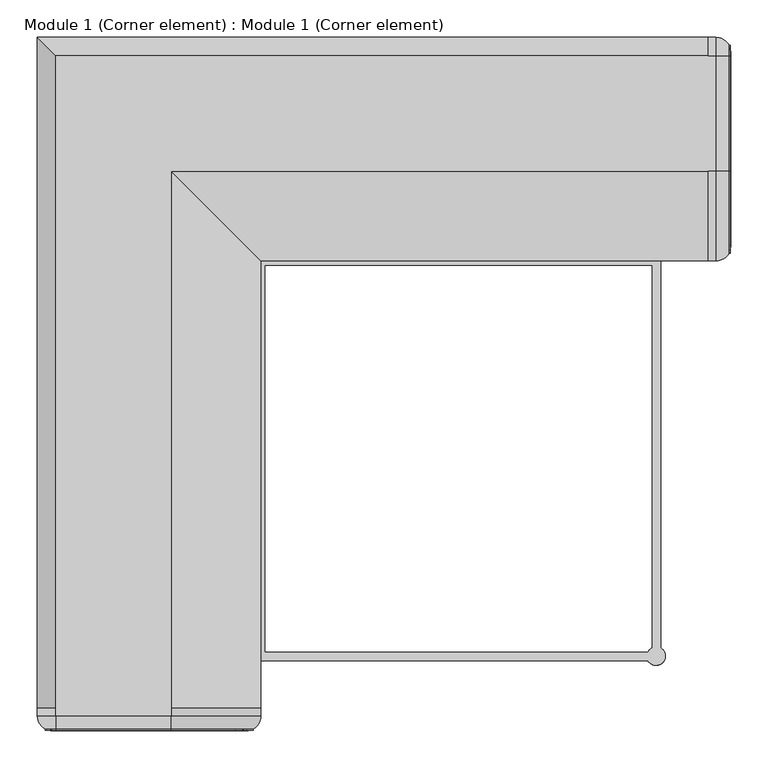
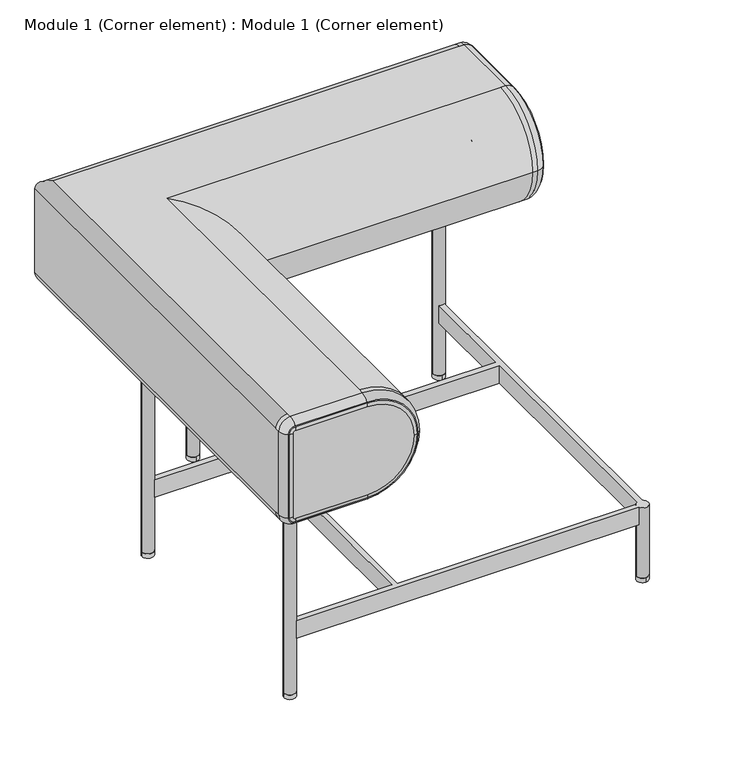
"""IFC4 building model written with IfcOpenShell, lengths in millimetres: furniture geometry, Module 1 (Corner element) : Module 1 (Corner element)."""

from ifc_helpers import new_model, si_unit, point, frame, frame_2d, origin, origin_with_axes, place, context, project, spatial, circle_curve, ellipse_curve, trimmed, segment, composite_curve, outline, extrude, source, transform, mapped, element, save
from ifc_brep_helpers import plane_surface, cylinder_surface, revolved_surface, advanced_brep


def module_1_corner_element_module_1_corner_element_ceed143c(model_context):
    return source(origin(), model_context, "Body", "SolidModel", [
        extrude(outline(composite_curve([segment(trimmed(circle_curve(frame_2d((-30.0, -300.0)), 12.5), [point((-17.5, -300.0))], [point((-42.5, -300.0))], False, "CARTESIAN"), True, "CONTINUOUS"), segment(trimmed(circle_curve(frame_2d((-30.0, -300.0)), 12.5), [point((-42.5, -300.0))], [point((-17.5, -300.0))], False, "CARTESIAN"), True, "CONTINUOUS")], self_intersect=False)), origin_with_axes(), (0.0, 0.0, 1.0), 10.0),
        extrude(outline(composite_curve([segment(trimmed(circle_curve(frame_2d((-30.0, -830.0)), 12.5), [point((-17.5, -830.0))], [point((-42.5, -830.0))], False, "CARTESIAN"), True, "CONTINUOUS"), segment(trimmed(circle_curve(frame_2d((-30.0, -830.0)), 12.5), [point((-42.5, -830.0))], [point((-17.5, -830.0))], False, "CARTESIAN"), True, "CONTINUOUS")], self_intersect=False)), origin_with_axes(), (0.0, 0.0, 1.0), 10.0),
        extrude(outline(composite_curve([segment(trimmed(circle_curve(frame_2d((730.0, -70.0)), 12.5), [point((730.0, -82.5))], [point((730.0, -57.5))], False, "CARTESIAN"), True, "CONTINUOUS"), segment(trimmed(circle_curve(frame_2d((730.0, -70.0)), 12.5), [point((730.0, -57.5))], [point((730.0, -82.5))], False, "CARTESIAN"), True, "CONTINUOUS")], self_intersect=False)), origin_with_axes(), (0.0, 0.0, 1.0), 10.0),
        extrude(outline(composite_curve([segment(trimmed(circle_curve(frame_2d((730.0, -830.0)), 12.5), [point((730.0, -842.5))], [point((730.0, -817.5))], False, "CARTESIAN"), True, "CONTINUOUS"), segment(trimmed(circle_curve(frame_2d((730.0, -830.0)), 12.5), [point((730.0, -817.5))], [point((730.0, -842.5))], False, "CARTESIAN"), True, "CONTINUOUS")], self_intersect=False)), origin_with_axes(), (0.0, 0.0, 1.0), 10.0),
        extrude(outline(composite_curve([segment(trimmed(circle_curve(frame_2d((200.0, -70.0)), 12.5), [point((200.0, -82.5))], [point((200.0, -57.5))], False, "CARTESIAN"), True, "CONTINUOUS"), segment(trimmed(circle_curve(frame_2d((200.0, -70.0)), 12.5), [point((200.0, -57.5))], [point((200.0, -82.5))], False, "CARTESIAN"), True, "CONTINUOUS")], self_intersect=False)), origin_with_axes(), (0.0, 0.0, 1.0), 10.0),
        advanced_brep(
        [(206.0281998, -306.0281998, 130.0), (206.0281998, -306.0281998, 170.0), (206.0281998, -823.9718002, 170.0), (206.0281998, -823.9718002, 130.0), (194.0281998, -80.9812386, 170.0), (194.0281998, -80.9812386, 130.0), (194.0281998, -294.0281998, 130.0), (194.0281998, -294.0281998, 170.0), (194.0281998, -823.9718002, 130.0), (194.0281998, -823.9718002, 170.0), (194.0281998, -306.0281998, 170.0), (194.0281998, -306.0281998, 130.0), (719.0496207, -823.9718002, 170.0), (719.0496207, -823.9718002, 130.0), (719.0187614, -835.9718002, 130.0), (719.0187614, -835.9718002, 170.0), (-19.0187614, -835.9718002, 170.0), (-19.0187614, -835.9718002, 130.0), (723.9718002, -306.0281998, 170.0), (723.9718002, -306.0281998, 130.0), (723.9718002, -819.0496207, 130.0), (723.9718002, -819.0496207, 170.0), (735.9718002, -819.0187614, 170.0), (735.9718002, -819.0187614, 130.0), (735.9718002, -80.9812386, 130.0), (735.9718002, -80.9812386, 170.0), (717.5, -830.0, 130.0), (-17.5, -830.0, 130.0), (-19.0496207, -823.9718002, 130.0), (-19.0496207, -306.0281998, 130.0), (-17.5, -300.0, 130.0), (-19.0187614, -294.0281998, 130.0), (206.0281998, -80.9503793, 130.0), (206.0281998, -294.0281998, 130.0), (723.9718002, -294.0281998, 130.0), (723.9718002, -80.9503793, 130.0), (206.0281998, -294.0281998, 170.0), (723.9718002, -294.0281998, 170.0), (742.5, -830.0, 170.0), (723.9718002, -80.9503793, 170.0), (206.0281998, -80.9503793, 170.0), (-19.0187614, -294.0281998, 170.0), (-17.5, -300.0, 170.0), (-19.0496207, -306.0281998, 170.0), (-19.0496207, -823.9718002, 170.0), (-17.5, -830.0, 170.0), (717.5, -830.0, 10.0), (742.5, -830.0, 10.0), (187.5, -70.0, 460.0), (212.5, -70.0, 460.0), (717.5, -70.0, 460.0), (742.5, -70.0, 460.0), (-42.5, -830.0, 460.0), (-17.5, -830.0, 460.0), (-42.5, -300.0, 460.0), (-17.5, -300.0, 460.0), (187.5, -70.0, 10.0), (212.5, -70.0, 10.0), (717.5, -70.0, 10.0), (742.5, -70.0, 10.0), (-42.5, -830.0, 10.0), (-17.5, -830.0, 10.0), (-42.5, -300.0, 10.0), (-17.5, -300.0, 10.0)],
        [
            (0, 1),
            (1, 2),
            (2, 3),
            (3, 0),
            (4, 5),
            (5, 6),
            (6, 7),
            (7, 4),
            (8, 9),
            (9, 10),
            (10, 11),
            (11, 8),
            (2, 12),
            (12, 13),
            (13, 3),
            (14, 15),
            (15, 16),
            (16, 17),
            (17, 14),
            (18, 19),
            (19, 20),
            (20, 21),
            (21, 18),
            (22, 23),
            (23, 24),
            (24, 25),
            (25, 22),
            (0, 19),
            (18, 1),
            (13, 26, circle_curve(frame((730.0, -830.0, 130.0), z_axis=(0.0, 0.0, 1.0), x_axis=(1.0, 0.0, 0.0)), 12.5)),
            (26, 14, circle_curve(frame((730.0, -830.0, 130.0), z_axis=(0.0, 0.0, 1.0), x_axis=(1.0, 0.0, 0.0)), 12.5)),
            (17, 27, circle_curve(frame((-30.0, -830.0, 130.0), z_axis=(0.0, 0.0, 1.0), x_axis=(1.0, 0.0, 0.0)), 12.5)),
            (27, 28, circle_curve(frame((-30.0, -830.0, 130.0), z_axis=(0.0, 0.0, 1.0), x_axis=(1.0, 0.0, 0.0)), 12.5)),
            (28, 8),
            (11, 29),
            (29, 30, circle_curve(frame((-30.0, -300.0, 130.0), z_axis=(0.0, 0.0, 1.0), x_axis=(1.0, 0.0, 0.0)), 12.5)),
            (30, 31, circle_curve(frame((-30.0, -300.0, 130.0), z_axis=(0.0, 0.0, 1.0), x_axis=(1.0, 0.0, 0.0)), 12.5)),
            (31, 6),
            (5, 32, circle_curve(frame((200.0, -70.0, 130.0), z_axis=(0.0, 0.0, 1.0), x_axis=(1.0, 0.0, 0.0)), 12.5)),
            (32, 33),
            (33, 34),
            (34, 35),
            (35, 24, circle_curve(frame((730.0, -70.0, 130.0), z_axis=(0.0, 0.0, 1.0), x_axis=(1.0, 0.0, 0.0)), 12.5)),
            (23, 20, circle_curve(frame((730.0, -830.0, 130.0), z_axis=(0.0, 0.0, 1.0), x_axis=(1.0, 0.0, 0.0)), 12.5)),
            (33, 36),
            (36, 37),
            (37, 34),
            (15, 38, circle_curve(frame((730.0, -830.0, 170.0), z_axis=(0.0, 0.0, 1.0), x_axis=(1.0, 0.0, 0.0)), 12.5)),
            (38, 22, circle_curve(frame((730.0, -830.0, 170.0), z_axis=(0.0, 0.0, 1.0), x_axis=(1.0, 0.0, 0.0)), 12.5)),
            (25, 39, circle_curve(frame((730.0, -70.0, 170.0), z_axis=(0.0, 0.0, -1.0), x_axis=(1.0, 0.0, 0.0)), 12.5)),
            (39, 37),
            (36, 40),
            (40, 4, circle_curve(frame((200.0, -70.0, 170.0), z_axis=(0.0, 0.0, -1.0), x_axis=(1.0, 0.0, 0.0)), 12.5)),
            (7, 41),
            (41, 42, circle_curve(frame((-30.0, -300.0, 170.0), z_axis=(0.0, 0.0, -1.0), x_axis=(1.0, 0.0, 0.0)), 12.5)),
            (42, 43, circle_curve(frame((-30.0, -300.0, 170.0), z_axis=(0.0, 0.0, -1.0), x_axis=(1.0, 0.0, 0.0)), 12.5)),
            (43, 10),
            (9, 44),
            (44, 45, circle_curve(frame((-30.0, -830.0, 170.0), z_axis=(0.0, 0.0, -1.0), x_axis=(1.0, 0.0, 0.0)), 12.5)),
            (45, 16, circle_curve(frame((-30.0, -830.0, 170.0), z_axis=(0.0, 0.0, -1.0), x_axis=(1.0, 0.0, 0.0)), 12.5)),
            (21, 12, circle_curve(frame((730.0, -830.0, 170.0), z_axis=(0.0, 0.0, 1.0), x_axis=(1.0, 0.0, 0.0)), 12.5)),
            (46, 47, circle_curve(frame((730.0, -830.0, 10.0), z_axis=(0.0, 0.0, -1.0), x_axis=(1.0, 0.0, 0.0)), 12.5)),
            (47, 46, circle_curve(frame((730.0, -830.0, 10.0), z_axis=(0.0, 0.0, -1.0), x_axis=(1.0, 0.0, 0.0)), 12.5)),
            (47, 38),
            (26, 46),
            (48, 49, circle_curve(frame((200.0, -70.0, 460.0), z_axis=(0.0, 0.0, 1.0), x_axis=(1.0, 0.0, 0.0)), 12.5)),
            (49, 48, circle_curve(frame((200.0, -70.0, 460.0), z_axis=(0.0, 0.0, 1.0), x_axis=(1.0, 0.0, 0.0)), 12.5)),
            (50, 51, circle_curve(frame((730.0, -70.0, 460.0), z_axis=(0.0, 0.0, 1.0), x_axis=(1.0, 0.0, 0.0)), 12.5)),
            (51, 50, circle_curve(frame((730.0, -70.0, 460.0), z_axis=(0.0, 0.0, 1.0), x_axis=(1.0, 0.0, 0.0)), 12.5)),
            (52, 53, circle_curve(frame((-30.0, -830.0, 460.0), z_axis=(0.0, 0.0, 1.0), x_axis=(1.0, 0.0, 0.0)), 12.5)),
            (53, 52, circle_curve(frame((-30.0, -830.0, 460.0), z_axis=(0.0, 0.0, 1.0), x_axis=(1.0, 0.0, 0.0)), 12.5)),
            (54, 55, circle_curve(frame((-30.0, -300.0, 460.0), z_axis=(0.0, 0.0, 1.0), x_axis=(1.0, 0.0, 0.0)), 12.5)),
            (55, 54, circle_curve(frame((-30.0, -300.0, 460.0), z_axis=(0.0, 0.0, 1.0), x_axis=(1.0, 0.0, 0.0)), 12.5)),
            (56, 57, circle_curve(frame((200.0, -70.0, 10.0), z_axis=(0.0, 0.0, -1.0), x_axis=(1.0, 0.0, 0.0)), 12.5)),
            (57, 56, circle_curve(frame((200.0, -70.0, 10.0), z_axis=(0.0, 0.0, -1.0), x_axis=(1.0, 0.0, 0.0)), 12.5)),
            (58, 59, circle_curve(frame((730.0, -70.0, 10.0), z_axis=(0.0, 0.0, -1.0), x_axis=(1.0, 0.0, 0.0)), 12.5)),
            (59, 58, circle_curve(frame((730.0, -70.0, 10.0), z_axis=(0.0, 0.0, -1.0), x_axis=(1.0, 0.0, 0.0)), 12.5)),
            (60, 61, circle_curve(frame((-30.0, -830.0, 10.0), z_axis=(0.0, 0.0, -1.0), x_axis=(1.0, 0.0, 0.0)), 12.5)),
            (61, 60, circle_curve(frame((-30.0, -830.0, 10.0), z_axis=(0.0, 0.0, -1.0), x_axis=(1.0, 0.0, 0.0)), 12.5)),
            (62, 63, circle_curve(frame((-30.0, -300.0, 10.0), z_axis=(0.0, 0.0, -1.0), x_axis=(1.0, 0.0, 0.0)), 12.5)),
            (63, 62, circle_curve(frame((-30.0, -300.0, 10.0), z_axis=(0.0, 0.0, -1.0), x_axis=(1.0, 0.0, 0.0)), 12.5)),
            (48, 56),
            (57, 49),
            (40, 32),
            (39, 35),
            (50, 58),
            (59, 51),
            (52, 60),
            (61, 27),
            (45, 53),
            (44, 28),
            (54, 62),
            (63, 30),
            (29, 43),
            (42, 55),
            (41, 31),
        ],
        [
            plane_surface(frame((206.0281998, -306.0281998, 170.0), z_axis=(1.0, 0.0, 0.0), x_axis=(0.0, -1.0, 0.0))),
            plane_surface(frame((194.0281998, -294.0281998, 130.0), z_axis=(-1.0, 0.0, 0.0), x_axis=(0.0, -1.0, 0.0))),
            plane_surface(frame((206.0281998, -823.9718002, 170.0), z_axis=(0.0, 1.0, 0.0), x_axis=(1.0, 0.0, 0.0))),
            plane_surface(frame((194.0281998, -835.9718002, 130.0), z_axis=(0.0, -1.0, 0.0), x_axis=(1.0, 0.0, 0.0))),
            plane_surface(frame((723.9718002, -823.9718002, 170.0), z_axis=(-1.0, 0.0, 0.0), x_axis=(0.0, 1.0, 0.0))),
            plane_surface(frame((735.9718002, -835.9718002, 130.0), z_axis=(1.0, 0.0, 0.0), x_axis=(0.0, 1.0, 0.0))),
            plane_surface(frame((723.9718002, -306.0281998, 170.0), z_axis=(0.0, -1.0, 0.0), x_axis=(-1.0, 0.0, 0.0))),
            plane_surface(frame((723.9718002, -306.0281998, 130.0), z_axis=(0.0, 0.0, -1.0), x_axis=(-1.0, 0.0, 0.0))),
            plane_surface(frame((735.9718002, -294.0281998, 130.0), z_axis=(0.0, 1.0, 0.0), x_axis=(-1.0, 0.0, 0.0))),
            plane_surface(frame((735.9718002, -294.0281998, 170.0), z_axis=(0.0, 0.0, 1.0), x_axis=(-1.0, 0.0, 0.0))),
            plane_surface(frame((742.5, -830.0, 10.0), z_axis=(0.0, 0.0, -1.0), x_axis=(0.0, -1.0, 0.0))),
            cylinder_surface(frame((730.0, -830.0, 10.0), z_axis=(0.0, 0.0, 1.0), x_axis=(1.0, 0.0, 0.0)), 12.5),
            plane_surface(frame((212.5, -70.0, 460.0), z_axis=(0.0, 0.0, 1.0), x_axis=(0.0, 1.0, 0.0))),
            plane_surface(frame((212.5, -70.0, 10.0), z_axis=(0.0, 0.0, -1.0), x_axis=(0.0, -1.0, 0.0))),
            cylinder_surface(frame((200.0, -70.0, 10.0), z_axis=(0.0, 0.0, 1.0), x_axis=(1.0, 0.0, 0.0)), 12.5),
            plane_surface(frame((206.0281998, -70.0, 170.0), z_axis=(1.0, 0.0, 0.0), x_axis=(0.0, -1.0, 0.0))),
            plane_surface(frame((723.9718002, -70.0, 130.0), z_axis=(-1.0, 0.0, 0.0), x_axis=(0.0, -1.0, 0.0))),
            cylinder_surface(frame((730.0, -70.0, 0.0), z_axis=(0.0, 0.0, 1.0), x_axis=(1.0, 0.0, 0.0)), 12.5),
            cylinder_surface(frame((-30.0, -830.0, 0.0), z_axis=(0.0, 0.0, 1.0), x_axis=(1.0, 0.0, 0.0)), 12.5),
            cylinder_surface(frame((-30.0, -300.0, 0.0), z_axis=(0.0, 0.0, 1.0), x_axis=(1.0, 0.0, 0.0)), 12.5),
            plane_surface(frame((200.0, -823.9718002, 130.0), z_axis=(0.0, 1.0, 0.0), x_axis=(-1.0, 0.0, 0.0))),
            plane_surface(frame((200.0, -306.0281998, 170.0), z_axis=(0.0, -1.0, 0.0), x_axis=(-1.0, 0.0, 0.0))),
            plane_surface(frame((200.0, -294.0281998, 130.0), z_axis=(0.0, 1.0, 0.0), x_axis=(-1.0, 0.0, 0.0))),
        ],
        [
            (0, [[1, 2, 3, 4]]),
            (1, [[5, 6, 7, 8]]),
            (1, [[9, 10, 11, 12]]),
            (2, [[-3, 13, 14, 15]]),
            (3, [[16, 17, 18, 19]]),
            (4, [[20, 21, 22, 23]]),
            (5, [[24, 25, 26, 27]]),
            (6, [[-1, 28, -20, 29]]),
            (7, [[-4, -15, 30, 31, -19, 32, 33, 34, -12, 35, 36, 37, 38, -6, 39, 40, 41, 42, 43, -25, 44, -21, -28]]),
            (8, [[45, 46, 47, -41]]),
            (9, [[48, 49, -27, 50, 51, -46, 52, 53, -8, 54, 55, 56, 57, -10, 58, 59, 60, -17], [-2, -29, -23, 61, -13]]),
            (10, [[62, 63]]),
            (11, [[-63, 64, -48, -16, -31, 65]]),
            (11, [[-62, -65, -30, -14, -61, -22, -44, -24, -49, -64]]),
            (12, [[66, 67]]),
            (12, [[68, 69]]),
            (12, [[70, 71]]),
            (12, [[72, 73]]),
            (13, [[74, 75]]),
            (13, [[76, 77]]),
            (13, [[78, 79]]),
            (13, [[80, 81]]),
            (14, [[-66, 82, -75, 83], [84, -39, -5, -53]]),
            (14, [[-67, -83, -74, -82]]),
            (15, [[-52, -45, -40, -84]]),
            (16, [[-42, -47, -51, 85]]),
            (17, [[-68, 86, -77, 87], [-26, -43, -85, -50]]),
            (17, [[-69, -87, -76, -86]]),
            (18, [[-70, 88, -79, 89, -32, -18, -60, 90]]),
            (18, [[-71, -90, -59, 91, -33, -89, -78, -88]]),
            (19, [[-72, 92, -81, 93, -36, 94, -56, 95]]),
            (19, [[-73, -95, -55, 96, -37, -93, -80, -92]]),
            (20, [[-58, -9, -34, -91]]),
            (21, [[-57, -94, -35, -11]]),
            (22, [[-54, -7, -38, -96]]),
        ],
    ),
        advanced_brep(
        [(830.0, -180.0, 680.0), (830.0, -280.0, 580.0), (830.0, -180.0, 480.0), (830.0, -25.0, 480.0), (830.0, -20.0, 485.0), (830.0, -20.0, 675.0), (830.0, -25.0, 680.0), (828.319335, -180.0, 688.0250834), (828.319335, -288.0250834, 580.0), (810.0, -300.0, 580.0), (810.0, -180.0, 700.0), (800.0, -180.0, 700.0), (800.0, -300.0, 580.0), (828.319335, -180.0, 471.9749166), (800.0, -180.0, 460.0), (810.0, -180.0, 460.0), (828.319335, -25.0, 471.9749166), (80.0, -180.0, 460.0), (80.0, -900.0, 460.0), (80.0, -910.0, 460.0), (-75.0, -910.0, 460.0), (-75.0, -900.0, 460.0), (-75.0, -25.0, 460.0), (800.0, -25.0, 460.0), (810.0, -25.0, 460.0), (828.319335, -11.9749166, 485.0), (800.0, 0.0, 485.0), (810.0, 0.0, 485.0), (828.319335, -11.9749166, 675.0), (-100.0, 0.0, 485.0), (-100.0, 0.0, 675.0), (800.0, 0.0, 675.0), (810.0, 0.0, 675.0), (828.319335, -25.0, 688.0250834), (800.0, -25.0, 700.0), (810.0, -25.0, 700.0), (-75.0, -25.0, 700.0), (-75.0, -900.0, 700.0), (-75.0, -910.0, 700.0), (80.0, -910.0, 700.0), (80.0, -900.0, 700.0), (80.0, -180.0, 700.0), (827.9066419, -288.9079837, 580.0), (827.9066419, -180.0, 688.9079837), (827.9066419, -180.0, 471.0920163), (827.9066419, -25.0, 471.0920163), (827.9066419, -11.0920163, 485.0), (827.9066419, -11.0920163, 675.0), (827.9066419, -25.0, 688.9079837), (200.0, -300.0, 580.0), (-75.0, -930.0, 680.0), (-80.0, -930.0, 675.0), (-80.0, -930.0, 485.0), (-75.0, -930.0, 480.0), (80.0, -930.0, 480.0), (180.0, -930.0, 580.0), (79.9999883, -930.0, 680.0), (-75.0, -928.2694485, 688.1380127), (-88.1380127, -928.2694485, 675.0), (-100.0, -910.0, 675.0), (-100.0, -900.0, 675.0), (-88.1380127, -928.2694485, 485.0), (-75.0, -928.2694485, 471.8619873), (-100.0, -910.0, 485.0), (-100.0, -900.0, 485.0), (80.0, -928.2694485, 471.8619873), (188.1380127, -928.2694485, 580.0), (200.0, -900.0, 580.0), (200.0, -910.0, 580.0), (80.0, -928.2694485, 688.1380127), (-88.9370117, -927.8921721, 675.0), (-75.0, -927.8921721, 688.9370117), (-88.9370117, -927.8921721, 485.0), (-75.0, -927.8921721, 471.0629883), (80.0, -927.8921721, 471.0629883), (188.9370117, -927.8921721, 580.0), (80.0, -927.8921721, 688.9370117)],
        [
            (0, 1, circle_curve(frame((830.0, -180.0, 580.0), z_axis=(1.0, 0.0, 0.0), x_axis=(0.0, 0.0, 1.0)), 100.0)),
            (1, 2, circle_curve(frame((830.0, -180.0, 580.0), z_axis=(1.0, 0.0, 0.0), x_axis=(0.0, -1.0, 0.0)), 100.0)),
            (2, 3),
            (3, 4, circle_curve(frame((830.0, -25.0, 485.0), z_axis=(1.0, 0.0, 0.0), x_axis=(0.0, 0.0, -1.0)), 5.0)),
            (4, 5),
            (5, 6, circle_curve(frame((830.0, -25.0, 675.0), z_axis=(1.0, 0.0, 0.0), x_axis=(0.0, 1.0, 0.0)), 5.0)),
            (6, 0),
            (0, 7, circle_curve(frame((810.0, -180.0, 680.0), z_axis=(0.0, -1.0, 0.0), x_axis=(0.0, 0.0, -1.0)), 20.0)),
            (7, 8, circle_curve(frame((828.319335, -180.0, 580.0), z_axis=(1.0, 0.0, 0.0), x_axis=(0.0, 0.0, 1.0)), 108.0250834)),
            (8, 1, circle_curve(frame((810.0, -280.0, 580.0), z_axis=(0.0, 0.0, 1.0), x_axis=(0.0, 1.0, 0.0)), 20.0)),
            (9, 10, circle_curve(frame((810.0, -180.0, 580.0), z_axis=(-1.0, 0.0, 0.0), x_axis=(0.0, 0.0, 1.0)), 120.0)),
            (10, 11),
            (11, 12, circle_curve(frame((800.0, -180.0, 580.0), z_axis=(1.0, 0.0, 0.0), x_axis=(0.0, 0.0, 1.0)), 120.0)),
            (12, 9),
            (8, 13, circle_curve(frame((828.319335, -180.0, 580.0), z_axis=(1.0, 0.0, 0.0), x_axis=(0.0, -1.0, 0.0)), 108.0250834)),
            (13, 2, circle_curve(frame((810.0, -180.0, 480.0), z_axis=(0.0, -1.0, 0.0), x_axis=(0.0, 0.0, 1.0)), 20.0)),
            (12, 14, circle_curve(frame((800.0, -180.0, 580.0), z_axis=(1.0, 0.0, 0.0), x_axis=(0.0, -1.0, 0.0)), 120.0)),
            (14, 15),
            (15, 9, circle_curve(frame((810.0, -180.0, 580.0), z_axis=(-1.0, 0.0, 0.0), x_axis=(0.0, -1.0, 0.0)), 120.0)),
            (13, 16),
            (16, 3, circle_curve(frame((810.0, -25.0, 480.0), z_axis=(0.0, -1.0, 0.0), x_axis=(0.0, 0.0, 1.0)), 20.0)),
            (14, 17),
            (17, 18),
            (18, 19),
            (19, 20),
            (20, 21),
            (21, 22),
            (22, 23),
            (23, 24),
            (24, 15),
            (16, 25, circle_curve(frame((828.319335, -25.0, 485.0), z_axis=(1.0, 0.0, 0.0), x_axis=(0.0, 0.0, -1.0)), 13.0250834)),
            (25, 4, circle_curve(frame((810.0, -20.0, 485.0), z_axis=(0.0, 0.0, -1.0), x_axis=(0.0, -1.0, 0.0)), 20.0)),
            (23, 26, circle_curve(frame((800.0, -25.0, 485.0), z_axis=(1.0, 0.0, 0.0), x_axis=(0.0, 0.0, -1.0)), 25.0)),
            (26, 27),
            (27, 24, circle_curve(frame((810.0, -25.0, 485.0), z_axis=(-1.0, 0.0, 0.0), x_axis=(0.0, 0.0, -1.0)), 25.0)),
            (25, 28),
            (28, 5, circle_curve(frame((810.0, -20.0, 675.0), z_axis=(0.0, 0.0, -1.0), x_axis=(0.0, -1.0, 0.0)), 20.0)),
            (26, 29),
            (29, 30),
            (30, 31),
            (31, 32),
            (32, 27),
            (28, 33, circle_curve(frame((828.319335, -25.0, 675.0), z_axis=(1.0, 0.0, 0.0), x_axis=(0.0, 1.0, 0.0)), 13.0250834)),
            (33, 6, circle_curve(frame((810.0, -25.0, 680.0), z_axis=(0.0, 1.0, 0.0), x_axis=(0.0, 0.0, -1.0)), 20.0)),
            (31, 34, circle_curve(frame((800.0, -25.0, 675.0), z_axis=(1.0, 0.0, 0.0), x_axis=(0.0, 1.0, 0.0)), 25.0)),
            (34, 35),
            (35, 32, circle_curve(frame((810.0, -25.0, 675.0), z_axis=(-1.0, 0.0, 0.0), x_axis=(0.0, 1.0, 0.0)), 25.0)),
            (33, 7),
            (10, 35),
            (34, 36),
            (36, 37),
            (37, 38),
            (38, 39),
            (39, 40),
            (40, 41),
            (41, 11),
            (9, 42, circle_curve(frame((810.0, -280.0, 580.0), z_axis=(0.0, 0.0, 1.0), x_axis=(0.0, 1.0, 0.0)), 20.0)),
            (42, 43, circle_curve(frame((827.9066419, -180.0, 580.0), z_axis=(-1.0, 0.0, 0.0), x_axis=(0.0, 0.0, 1.0)), 108.9079837)),
            (43, 10, circle_curve(frame((810.0, -180.0, 680.0), z_axis=(0.0, -1.0, 0.0), x_axis=(0.0, 0.0, -1.0)), 20.0)),
            (7, 43, circle_curve(frame((828.6877598, -180.0, 688.7351983), z_axis=(0.0, -1.0, 0.0), x_axis=(0.0, 0.0, -1.0)), 0.8)),
            (42, 8, circle_curve(frame((828.6877598, -288.7351983, 580.0), z_axis=(0.0, 0.0, 1.0), x_axis=(0.0, 1.0, 0.0)), 0.8)),
            (15, 44, circle_curve(frame((810.0, -180.0, 480.0), z_axis=(0.0, -1.0, 0.0), x_axis=(0.0, 0.0, 1.0)), 20.0)),
            (44, 42, circle_curve(frame((827.9066419, -180.0, 580.0), z_axis=(-1.0, 0.0, 0.0), x_axis=(0.0, -1.0, 0.0)), 108.9079837)),
            (44, 13, circle_curve(frame((828.6877598, -180.0, 471.2648017), z_axis=(0.0, -1.0, 0.0), x_axis=(0.0, 0.0, 1.0)), 0.8)),
            (24, 45, circle_curve(frame((810.0, -25.0, 480.0), z_axis=(0.0, -1.0, 0.0), x_axis=(0.0, 0.0, 1.0)), 20.0)),
            (45, 44),
            (45, 16, circle_curve(frame((828.6877598, -25.0, 471.2648017), z_axis=(0.0, -1.0, 0.0), x_axis=(0.0, 0.0, 1.0)), 0.8)),
            (27, 46, circle_curve(frame((810.0, -20.0, 485.0), z_axis=(0.0, 0.0, -1.0), x_axis=(0.0, -1.0, 0.0)), 20.0)),
            (46, 45, circle_curve(frame((827.9066419, -25.0, 485.0), z_axis=(-1.0, 0.0, 0.0), x_axis=(0.0, 0.0, -1.0)), 13.9079837)),
            (46, 25, circle_curve(frame((828.6877598, -11.2648017, 485.0), z_axis=(0.0, 0.0, -1.0), x_axis=(0.0, -1.0, 0.0)), 0.8)),
            (32, 47, circle_curve(frame((810.0, -20.0, 675.0), z_axis=(0.0, 0.0, -1.0), x_axis=(0.0, -1.0, 0.0)), 20.0)),
            (47, 46),
            (47, 28, circle_curve(frame((828.6877598, -11.2648017, 675.0), z_axis=(0.0, 0.0, -1.0), x_axis=(0.0, -1.0, 0.0)), 0.8)),
            (35, 48, circle_curve(frame((810.0, -25.0, 680.0), z_axis=(0.0, 1.0, 0.0), x_axis=(0.0, 0.0, -1.0)), 20.0)),
            (48, 47, circle_curve(frame((827.9066419, -25.0, 675.0), z_axis=(-1.0, 0.0, 0.0), x_axis=(0.0, 1.0, 0.0)), 13.9079837)),
            (48, 33, circle_curve(frame((828.6877598, -25.0, 688.7351983), z_axis=(0.0, 1.0, 0.0), x_axis=(0.0, 0.0, -1.0)), 0.8)),
            (43, 48),
            (30, 36, ellipse_curve(frame((-75.0, -25.0, 675.0), z_axis=(0.7071067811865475, 0.7071067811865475, 0.0), x_axis=(0.7071067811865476, -0.7071067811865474, 0.0)), 35.3553391, 25.0)),
            (41, 49, ellipse_curve(frame((80.0, -180.0, 580.0), z_axis=(0.7071067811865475, 0.7071067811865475, 0.0), x_axis=(0.7071067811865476, -0.7071067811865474, 0.0)), 169.7056275, 120.0)),
            (49, 12),
            (49, 17, ellipse_curve(frame((80.0, -180.0, 580.0), z_axis=(0.7071067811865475, 0.7071067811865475, 0.0), x_axis=(0.7071067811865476, -0.7071067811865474, 0.0)), 169.7056275, 120.0)),
            (22, 29, ellipse_curve(frame((-75.0, -25.0, 485.0), z_axis=(0.7071067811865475, 0.7071067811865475, 0.0), x_axis=(0.7071067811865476, -0.7071067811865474, 0.0)), 35.3553391, 25.0)),
            (50, 51, circle_curve(frame((-75.0, -930.0, 675.0), z_axis=(0.0, -1.0, 0.0), x_axis=(0.0, 0.0, 1.0)), 5.0)),
            (51, 52),
            (52, 53, circle_curve(frame((-75.0, -930.0, 485.0), z_axis=(0.0, -1.0, 0.0), x_axis=(-1.0, 0.0, 0.0)), 5.0)),
            (53, 54),
            (54, 55, circle_curve(frame((80.0, -930.0, 580.0), z_axis=(0.0, -1.0, 0.0), x_axis=(0.0, 0.0, -1.0)), 100.0)),
            (55, 56, circle_curve(frame((80.0, -930.0, 580.0), z_axis=(0.0, -1.0, 0.0), x_axis=(1.0, 0.0, 0.0)), 100.0)),
            (56, 50),
            (50, 57, circle_curve(frame((-75.0, -910.0, 680.0), z_axis=(-1.0, 0.0, 0.0), x_axis=(0.0, 0.0, -1.0)), 20.0)),
            (57, 58, circle_curve(frame((-75.0, -928.2694485, 675.0), z_axis=(0.0, -1.0, 0.0), x_axis=(0.0, 0.0, 1.0)), 13.1380127)),
            (58, 51, circle_curve(frame((-80.0, -910.0, 675.0), z_axis=(0.0, 0.0, 1.0), x_axis=(1.0, 0.0, 0.0)), 20.0)),
            (59, 38, circle_curve(frame((-75.0, -910.0, 675.0), z_axis=(0.0, 1.0, 0.0), x_axis=(0.0, 0.0, 1.0)), 25.0)),
            (37, 60, circle_curve(frame((-75.0, -900.0, 675.0), z_axis=(0.0, -1.0, 0.0), x_axis=(0.0, 0.0, 1.0)), 25.0)),
            (60, 59),
            (58, 61),
            (61, 52, circle_curve(frame((-80.0, -910.0, 485.0), z_axis=(0.0, 0.0, 1.0), x_axis=(1.0, 0.0, 0.0)), 20.0)),
            (61, 62, circle_curve(frame((-75.0, -928.2694485, 485.0), z_axis=(0.0, -1.0, 0.0), x_axis=(-1.0, 0.0, 0.0)), 13.1380127)),
            (62, 53, circle_curve(frame((-75.0, -910.0, 480.0), z_axis=(-1.0, 0.0, 0.0), x_axis=(0.0, 0.0, 1.0)), 20.0)),
            (63, 64),
            (64, 21, circle_curve(frame((-75.0, -900.0, 485.0), z_axis=(0.0, -1.0, 0.0), x_axis=(-1.0, 0.0, 0.0)), 25.0)),
            (20, 63, circle_curve(frame((-75.0, -910.0, 485.0), z_axis=(0.0, 1.0, 0.0), x_axis=(-1.0, 0.0, 0.0)), 25.0)),
            (62, 65),
            (65, 54, circle_curve(frame((80.0, -910.0, 480.0), z_axis=(-1.0, 0.0, 0.0), x_axis=(0.0, 0.0, 1.0)), 20.0)),
            (65, 66, circle_curve(frame((80.0, -928.2694485, 580.0), z_axis=(0.0, -1.0, 0.0), x_axis=(0.0, 0.0, -1.0)), 108.1380127)),
            (66, 55, circle_curve(frame((180.0, -910.0, 580.0), z_axis=(0.0, 0.0, -1.0), x_axis=(-1.0, 0.0, 0.0)), 20.0)),
            (18, 67, circle_curve(frame((80.0, -900.0, 580.0), z_axis=(0.0, -1.0, 0.0), x_axis=(0.0, 0.0, -1.0)), 120.0)),
            (67, 68),
            (68, 19, circle_curve(frame((80.0, -910.0, 580.0), z_axis=(0.0, 1.0, 0.0), x_axis=(0.0, 0.0, -1.0)), 120.0)),
            (66, 69, circle_curve(frame((80.0, -928.2694485, 580.0), z_axis=(0.0, -1.0, 0.0), x_axis=(1.0, 0.0, 0.0)), 108.1380127)),
            (69, 56, circle_curve(frame((80.0, -910.0, 680.0), z_axis=(1.0, 0.0, 0.0), x_axis=(0.0, 0.0, -1.0)), 20.0)),
            (67, 40, circle_curve(frame((80.0, -900.0, 580.0), z_axis=(0.0, -1.0, 0.0), x_axis=(1.0, 0.0, 0.0)), 120.0)),
            (39, 68, circle_curve(frame((80.0, -910.0, 580.0), z_axis=(0.0, 1.0, 0.0), x_axis=(1.0, 0.0, 0.0)), 120.0)),
            (69, 57),
            (59, 70, circle_curve(frame((-80.0, -910.0, 675.0), z_axis=(0.0, 0.0, 1.0), x_axis=(1.0, 0.0, 0.0)), 20.0)),
            (70, 71, circle_curve(frame((-75.0, -927.8921721, 675.0), z_axis=(0.0, 1.0, 0.0), x_axis=(0.0, 0.0, 1.0)), 13.9370117)),
            (71, 38, circle_curve(frame((-75.0, -910.0, 680.0), z_axis=(-1.0, 0.0, 0.0), x_axis=(0.0, 0.0, -1.0)), 20.0)),
            (57, 71, circle_curve(frame((-75.0, -928.6898309, 688.8250834), z_axis=(-1.0, 0.0, 0.0), x_axis=(0.0, 0.0, -1.0)), 0.8054734)),
            (70, 58, circle_curve(frame((-88.8250834, -928.6898309, 675.0), z_axis=(0.0, 0.0, 1.0), x_axis=(1.0, 0.0, 0.0)), 0.8054734)),
            (59, 63),
            (63, 72, circle_curve(frame((-80.0, -910.0, 485.0), z_axis=(0.0, 0.0, 1.0), x_axis=(1.0, 0.0, 0.0)), 20.0)),
            (72, 70),
            (72, 61, circle_curve(frame((-88.8250834, -928.6898309, 485.0), z_axis=(0.0, 0.0, 1.0), x_axis=(1.0, 0.0, 0.0)), 0.8054734)),
            (20, 73, circle_curve(frame((-75.0, -910.0, 480.0), z_axis=(-1.0, 0.0, 0.0), x_axis=(0.0, 0.0, 1.0)), 20.0)),
            (73, 72, circle_curve(frame((-75.0, -927.8921721, 485.0), z_axis=(0.0, 1.0, 0.0), x_axis=(-1.0, 0.0, 0.0)), 13.9370117)),
            (73, 62, circle_curve(frame((-75.0, -928.6898309, 471.1749166), z_axis=(-1.0, 0.0, 0.0), x_axis=(0.0, 0.0, 1.0)), 0.8054734)),
            (19, 74, circle_curve(frame((80.0, -910.0, 480.0), z_axis=(-1.0, 0.0, 0.0), x_axis=(0.0, 0.0, 1.0)), 20.0)),
            (74, 73),
            (74, 65, circle_curve(frame((80.0, -928.6898309, 471.1749166), z_axis=(-1.0, 0.0, 0.0), x_axis=(0.0, 0.0, 1.0)), 0.8054734)),
            (68, 75, circle_curve(frame((180.0, -910.0, 580.0), z_axis=(0.0, 0.0, -1.0), x_axis=(-1.0, 0.0, 0.0)), 20.0)),
            (75, 74, circle_curve(frame((80.0, -927.8921721, 580.0), z_axis=(0.0, 1.0, 0.0), x_axis=(0.0, 0.0, -1.0)), 108.9370117)),
            (75, 66, circle_curve(frame((188.8250834, -928.6898309, 580.0), z_axis=(0.0, 0.0, -1.0), x_axis=(-1.0, 0.0, 0.0)), 0.8054734)),
            (39, 76, circle_curve(frame((80.0, -910.0, 680.0), z_axis=(1.0, 0.0, 0.0), x_axis=(0.0, 0.0, -1.0)), 20.0)),
            (76, 75, circle_curve(frame((80.0, -927.8921721, 580.0), z_axis=(0.0, 1.0, 0.0), x_axis=(1.0, 0.0, 0.0)), 108.9370117)),
            (76, 69, circle_curve(frame((80.0, -928.6898309, 688.8250834), z_axis=(1.0, 0.0, 0.0), x_axis=(0.0, 0.0, -1.0)), 0.8054734)),
            (71, 76),
            (29, 64),
            (60, 30),
            (67, 49),
        ],
        [
            plane_surface(frame((830.0, -180.0, 680.0), z_axis=(1.0, 0.0, 0.0), x_axis=(0.0, -1.0, 0.0))),
            revolved_surface(trimmed(ellipse_curve(frame((810.0, -180.0, 680.0), z_axis=(0.0, 1.0, 0.0), x_axis=(0.0, 0.0, -1.0)), 20.0, 20.0), [point((828.319335, -180.0, 688.0250834))], [point((830.0, -180.0, 680.0))], True, "CARTESIAN"), (800.0, -180.0, 580.0), (1.0, 0.0, 0.0)),
            cylinder_surface(frame((800.0, -180.0, 580.0), z_axis=(1.0, 0.0, 0.0), x_axis=(0.0, 0.0, 1.0)), 120.0),
            revolved_surface(trimmed(ellipse_curve(frame((810.0, -280.0, 580.0), z_axis=(0.0, 0.0, 1.0), x_axis=(0.0, 1.0, 0.0)), 20.0, 20.0), [point((828.319335, -288.0250834, 580.0))], [point((830.0, -280.0, 580.0))], True, "CARTESIAN"), (800.0, -180.0, 580.0), (1.0, 0.0, 0.0)),
            cylinder_surface(frame((800.0, -180.0, 580.0), z_axis=(1.0, 0.0, 0.0), x_axis=(0.0, -1.0, 0.0)), 120.0),
            cylinder_surface(frame((810.0, -180.0, 480.0), z_axis=(0.0, -1.0, 0.0), x_axis=(0.0, 0.0, 1.0)), 20.0),
            plane_surface(frame((800.0, -180.0, 460.0), z_axis=(0.0, 0.0, -1.0), x_axis=(0.0, 1.0, 0.0))),
            revolved_surface(trimmed(ellipse_curve(frame((810.0, -25.0, 480.0), z_axis=(0.0, -1.0, 0.0), x_axis=(0.0, 0.0, 1.0)), 20.0, 20.0), [point((828.319335, -25.0, 471.9749166))], [point((830.0, -25.0, 480.0))], True, "CARTESIAN"), (800.0, -25.0, 485.0), (1.0, 0.0, 0.0)),
            cylinder_surface(frame((800.0, -25.0, 485.0), z_axis=(1.0, 0.0, 0.0), x_axis=(0.0, 0.0, -1.0)), 25.0),
            cylinder_surface(frame((810.0, -20.0, 485.0), z_axis=(0.0, 0.0, -1.0), x_axis=(0.0, -1.0, 0.0)), 20.0),
            plane_surface(frame((800.0, 0.0, 485.0), z_axis=(0.0, 1.0, 0.0), x_axis=(0.0, 0.0, 1.0))),
            revolved_surface(trimmed(ellipse_curve(frame((810.0, -20.0, 675.0), z_axis=(0.0, 0.0, -1.0), x_axis=(0.0, -1.0, 0.0)), 20.0, 20.0), [point((828.319335, -11.9749166, 675.0))], [point((830.0, -20.0, 675.0))], True, "CARTESIAN"), (800.0, -25.0, 675.0), (1.0, 0.0, 0.0)),
            cylinder_surface(frame((800.0, -25.0, 675.0), z_axis=(1.0, 0.0, 0.0), x_axis=(0.0, 1.0, 0.0)), 25.0),
            cylinder_surface(frame((810.0, -25.0, 680.0), z_axis=(0.0, 1.0, 0.0), x_axis=(0.0, 0.0, -1.0)), 20.0),
            plane_surface(frame((800.0, -25.0, 700.0), z_axis=(0.0, 0.0, 1.0), x_axis=(0.0, -1.0, 0.0))),
            revolved_surface(trimmed(ellipse_curve(frame((810.0, -180.0, 680.0), z_axis=(0.0, 1.0, 0.0), x_axis=(0.0, 0.0, -1.0)), 20.0, 20.0), [point((810.0, -180.0, 700.0))], [point((827.9066419, -180.0, 688.9079837))], True, "CARTESIAN"), (800.0, -180.0, 580.0), (1.0, 0.0, 0.0)),
            revolved_surface(trimmed(ellipse_curve(frame((828.6877598, -180.0, 688.7351983), z_axis=(0.0, 1.0, 0.0), x_axis=(0.0, 0.0, -1.0)), 0.8, 0.8), [point((827.9066419, -180.0, 688.9079837))], [point((828.319335, -180.0, 688.0250834))], True, "CARTESIAN"), (800.0, -180.0, 580.0), (1.0, 0.0, 0.0)),
            revolved_surface(trimmed(ellipse_curve(frame((810.0, -280.0, 580.0), z_axis=(0.0, 0.0, 1.0), x_axis=(0.0, 1.0, 0.0)), 20.0, 20.0), [point((810.0, -300.0, 580.0))], [point((827.9066419, -288.9079837, 580.0))], True, "CARTESIAN"), (800.0, -180.0, 580.0), (1.0, 0.0, 0.0)),
            revolved_surface(trimmed(ellipse_curve(frame((828.6877598, -288.7351983, 580.0), z_axis=(0.0, 0.0, 1.0), x_axis=(0.0, 1.0, 0.0)), 0.8, 0.8), [point((827.9066419, -288.9079837, 580.0))], [point((828.319335, -288.0250834, 580.0))], True, "CARTESIAN"), (800.0, -180.0, 580.0), (1.0, 0.0, 0.0)),
            cylinder_surface(frame((828.6877598, -180.0, 471.2648017), z_axis=(0.0, -1.0, 0.0), x_axis=(0.0, 0.0, 1.0)), 0.8),
            revolved_surface(trimmed(ellipse_curve(frame((810.0, -25.0, 480.0), z_axis=(0.0, -1.0, 0.0), x_axis=(0.0, 0.0, 1.0)), 20.0, 20.0), [point((810.0, -25.0, 460.0))], [point((827.9066419, -25.0, 471.0920163))], True, "CARTESIAN"), (800.0, -25.0, 485.0), (1.0, 0.0, 0.0)),
            revolved_surface(trimmed(ellipse_curve(frame((828.6877598, -25.0, 471.2648017), z_axis=(0.0, -1.0, 0.0), x_axis=(0.0, 0.0, 1.0)), 0.8, 0.8), [point((827.9066419, -25.0, 471.0920163))], [point((828.319335, -25.0, 471.9749166))], True, "CARTESIAN"), (800.0, -25.0, 485.0), (1.0, 0.0, 0.0)),
            cylinder_surface(frame((828.6877598, -11.2648017, 485.0), z_axis=(0.0, 0.0, -1.0), x_axis=(0.0, -1.0, 0.0)), 0.8),
            revolved_surface(trimmed(ellipse_curve(frame((810.0, -20.0, 675.0), z_axis=(0.0, 0.0, -1.0), x_axis=(0.0, -1.0, 0.0)), 20.0, 20.0), [point((810.0, 0.0, 675.0))], [point((827.9066419, -11.0920163, 675.0))], True, "CARTESIAN"), (800.0, -25.0, 675.0), (1.0, 0.0, 0.0)),
            revolved_surface(trimmed(ellipse_curve(frame((828.6877598, -11.2648017, 675.0), z_axis=(0.0, 0.0, -1.0), x_axis=(0.0, -1.0, 0.0)), 0.8, 0.8), [point((827.9066419, -11.0920163, 675.0))], [point((828.319335, -11.9749166, 675.0))], True, "CARTESIAN"), (800.0, -25.0, 675.0), (1.0, 0.0, 0.0)),
            cylinder_surface(frame((828.6877598, -25.0, 688.7351983), z_axis=(0.0, 1.0, 0.0), x_axis=(0.0, 0.0, -1.0)), 0.8),
            cylinder_surface(frame((800.0, -25.0, 675.0), z_axis=(1.0, 0.0, 0.0), x_axis=(0.0, -1.0, 0.0)), 25.0),
            cylinder_surface(frame((800.0, -25.0, 485.0), z_axis=(1.0, 0.0, 0.0), x_axis=(0.0, -1.0, 0.0)), 25.0),
            plane_surface(frame((-75.0, -930.0, 680.0), z_axis=(0.0, -1.0, 0.0), x_axis=(-1.0, 0.0, 0.0))),
            revolved_surface(trimmed(ellipse_curve(frame((-75.0, -910.0, 680.0), z_axis=(1.0, 0.0, 0.0), x_axis=(0.0, 0.0, -1.0)), 20.0, 20.0), [point((-75.0, -928.2694485, 688.1380127))], [point((-75.0, -930.0, 680.0))], True, "CARTESIAN"), (-75.0, -900.0, 675.0), (0.0, -1.0, 0.0)),
            cylinder_surface(frame((-75.0, -900.0, 675.0), z_axis=(0.0, -1.0, 0.0), x_axis=(0.0, 0.0, 1.0)), 25.0),
            cylinder_surface(frame((-80.0, -910.0, 675.0), z_axis=(0.0, 0.0, 1.0), x_axis=(1.0, 0.0, 0.0)), 20.0),
            revolved_surface(trimmed(ellipse_curve(frame((-80.0, -910.0, 485.0), z_axis=(0.0, 0.0, 1.0), x_axis=(1.0, 0.0, 0.0)), 20.0, 20.0), [point((-88.1380127, -928.2694485, 485.0))], [point((-80.0, -930.0, 485.0))], True, "CARTESIAN"), (-75.0, -900.0, 485.0), (0.0, -1.0, 0.0)),
            cylinder_surface(frame((-75.0, -900.0, 485.0), z_axis=(0.0, -1.0, 0.0), x_axis=(-1.0, 0.0, 0.0)), 25.0),
            cylinder_surface(frame((-75.0, -910.0, 480.0), z_axis=(-1.0, 0.0, 0.0), x_axis=(0.0, 0.0, 1.0)), 20.0),
            revolved_surface(trimmed(ellipse_curve(frame((80.0, -910.0, 480.0), z_axis=(-1.0, 0.0, 0.0), x_axis=(0.0, 0.0, 1.0)), 20.0, 20.0), [point((80.0, -928.2694485, 471.8619873))], [point((80.0, -930.0, 480.0))], True, "CARTESIAN"), (80.0, -900.0, 580.0), (0.0, -1.0, 0.0)),
            cylinder_surface(frame((80.0, -900.0, 580.0), z_axis=(0.0, -1.0, 0.0), x_axis=(0.0, 0.0, -1.0)), 120.0),
            revolved_surface(trimmed(ellipse_curve(frame((180.0, -910.0, 580.0), z_axis=(0.0, 0.0, -1.0), x_axis=(-1.0, 0.0, 0.0)), 20.0, 20.0), [point((188.1380127, -928.2694485, 580.0))], [point((180.0, -930.0, 580.0))], True, "CARTESIAN"), (80.0, -900.0, 580.0), (0.0, -1.0, 0.0)),
            cylinder_surface(frame((80.0, -900.0, 580.0), z_axis=(0.0, -1.0, 0.0), x_axis=(1.0, 0.0, 0.0)), 120.0),
            cylinder_surface(frame((80.0, -910.0, 680.0), z_axis=(1.0, 0.0, 0.0), x_axis=(0.0, 0.0, -1.0)), 20.0),
            revolved_surface(trimmed(ellipse_curve(frame((-75.0, -910.0, 680.0), z_axis=(1.0, 0.0, 0.0), x_axis=(0.0, 0.0, -1.0)), 20.0, 20.0), [point((-75.0, -910.0, 700.0))], [point((-75.0, -927.8921721, 688.9370117))], True, "CARTESIAN"), (-75.0, -900.0, 675.0), (0.0, -1.0, 0.0)),
            revolved_surface(trimmed(ellipse_curve(frame((-75.0, -928.6898309, 688.8250834), z_axis=(1.0, 0.0, 0.0), x_axis=(0.0, 0.0, -1.0)), 0.8054734, 0.8054734), [point((-75.0, -927.8921721, 688.9370117))], [point((-75.0, -928.2694485, 688.1380127))], True, "CARTESIAN"), (-75.0, -900.0, 675.0), (0.0, -1.0, 0.0)),
            cylinder_surface(frame((-88.8250834, -928.6898309, 675.0), z_axis=(0.0, 0.0, 1.0), x_axis=(1.0, 0.0, 0.0)), 0.8054734),
            revolved_surface(trimmed(ellipse_curve(frame((-80.0, -910.0, 485.0), z_axis=(0.0, 0.0, 1.0), x_axis=(1.0, 0.0, 0.0)), 20.0, 20.0), [point((-100.0, -910.0, 485.0))], [point((-88.9370117, -927.8921721, 485.0))], True, "CARTESIAN"), (-75.0, -900.0, 485.0), (0.0, -1.0, 0.0)),
            revolved_surface(trimmed(ellipse_curve(frame((-88.8250834, -928.6898309, 485.0), z_axis=(0.0, 0.0, 1.0), x_axis=(1.0, 0.0, 0.0)), 0.8054734, 0.8054734), [point((-88.9370117, -927.8921721, 485.0))], [point((-88.1380127, -928.2694485, 485.0))], True, "CARTESIAN"), (-75.0, -900.0, 485.0), (0.0, -1.0, 0.0)),
            cylinder_surface(frame((-75.0, -928.6898309, 471.1749166), z_axis=(-1.0, 0.0, 0.0), x_axis=(0.0, 0.0, 1.0)), 0.8054734),
            revolved_surface(trimmed(ellipse_curve(frame((80.0, -910.0, 480.0), z_axis=(-1.0, 0.0, 0.0), x_axis=(0.0, 0.0, 1.0)), 20.0, 20.0), [point((80.0, -910.0, 460.0))], [point((80.0, -927.8921721, 471.0629883))], True, "CARTESIAN"), (80.0, -900.0, 580.0), (0.0, -1.0, 0.0)),
            revolved_surface(trimmed(ellipse_curve(frame((80.0, -928.6898309, 471.1749166), z_axis=(-1.0, 0.0, 0.0), x_axis=(0.0, 0.0, 1.0)), 0.8054734, 0.8054734), [point((80.0, -927.8921721, 471.0629883))], [point((80.0, -928.2694485, 471.8619873))], True, "CARTESIAN"), (80.0, -900.0, 580.0), (0.0, -1.0, 0.0)),
            revolved_surface(trimmed(ellipse_curve(frame((180.0, -910.0, 580.0), z_axis=(0.0, 0.0, -1.0), x_axis=(-1.0, 0.0, 0.0)), 20.0, 20.0), [point((200.0, -910.0, 580.0))], [point((188.9370117, -927.8921721, 580.0))], True, "CARTESIAN"), (80.0, -900.0, 580.0), (0.0, -1.0, 0.0)),
            revolved_surface(trimmed(ellipse_curve(frame((188.8250834, -928.6898309, 580.0), z_axis=(0.0, 0.0, -1.0), x_axis=(-1.0, 0.0, 0.0)), 0.8054734, 0.8054734), [point((188.9370117, -927.8921721, 580.0))], [point((188.1380127, -928.2694485, 580.0))], True, "CARTESIAN"), (80.0, -900.0, 580.0), (0.0, -1.0, 0.0)),
            cylinder_surface(frame((80.0, -928.6898309, 688.8250834), z_axis=(1.0, 0.0, 0.0), x_axis=(0.0, 0.0, -1.0)), 0.8054734),
            plane_surface(frame((-100.0, 0.0, 485.0), z_axis=(-1.0, 0.0, 0.0), x_axis=(0.0, -1.0, 0.0))),
            cylinder_surface(frame((-75.0, 0.0, 675.0), z_axis=(0.0, 1.0, 0.0), x_axis=(1.0, 0.0, 0.0)), 25.0),
            cylinder_surface(frame((80.0, 0.0, 580.0), z_axis=(0.0, 1.0, 0.0), x_axis=(1.0, 0.0, 0.0)), 120.0),
            cylinder_surface(frame((-75.0, 0.0, 485.0), z_axis=(0.0, 1.0, 0.0), x_axis=(1.0, 0.0, 0.0)), 25.0),
        ],
        [
            (0, [[1, 2, 3, 4, 5, 6, 7]]),
            (1, [[8, 9, 10, -1]]),
            (2, [[11, 12, 13, 14]]),
            (3, [[-10, 15, 16, -2]]),
            (4, [[-14, 17, 18, 19]]),
            (5, [[-16, 20, 21, -3]]),
            (6, [[-18, 22, 23, 24, 25, 26, 27, 28, 29, 30]]),
            (7, [[-21, 31, 32, -4]]),
            (8, [[-29, 33, 34, 35]]),
            (9, [[-32, 36, 37, -5]]),
            (10, [[-34, 38, 39, 40, 41, 42]]),
            (11, [[-37, 43, 44, -6]]),
            (12, [[-41, 45, 46, 47]]),
            (13, [[-8, -7, -44, 48]]),
            (14, [[-12, 49, -46, 50, 51, 52, 53, 54, 55, 56]]),
            (15, [[-11, 57, 58, 59]]),
            (16, [[-9, 60, -58, 61]]),
            (17, [[-19, 62, 63, -57]]),
            (18, [[-15, -61, -63, 64]]),
            (5, [[-30, 65, 66, -62]]),
            (19, [[-20, -64, -66, 67]]),
            (20, [[-35, 68, 69, -65]]),
            (21, [[-31, -67, -69, 70]]),
            (9, [[-42, 71, 72, -68]]),
            (22, [[-36, -70, -72, 73]]),
            (23, [[-47, 74, 75, -71]]),
            (24, [[-43, -73, -75, 76]]),
            (13, [[-49, -59, 77, -74]]),
            (25, [[-48, -76, -77, -60]]),
            (26, [[-40, 78, -50, -45]]),
            (4, [[-56, 79, 80, -13]]),
            (4, [[-80, 81, -22, -17]]),
            (27, [[-38, -33, -28, 82]]),
            (28, [[83, 84, 85, 86, 87, 88, 89]]),
            (29, [[90, 91, 92, -83]]),
            (30, [[93, -52, 94, 95]]),
            (31, [[-92, 96, 97, -84]]),
            (32, [[-97, 98, 99, -85]]),
            (33, [[100, 101, -26, 102]]),
            (34, [[-99, 103, 104, -86]]),
            (35, [[-104, 105, 106, -87]]),
            (36, [[-24, 107, 108, 109]]),
            (37, [[-106, 110, 111, -88]]),
            (38, [[-108, 112, -54, 113]]),
            (39, [[-90, -89, -111, 114]]),
            (40, [[-93, 115, 116, 117]]),
            (41, [[-91, 118, -116, 119]]),
            (31, [[120, 121, 122, -115]]),
            (42, [[-96, -119, -122, 123]]),
            (43, [[-102, 124, 125, -121]]),
            (44, [[-98, -123, -125, 126]]),
            (34, [[-25, 127, 128, -124]]),
            (45, [[-103, -126, -128, 129]]),
            (46, [[-109, 130, 131, -127]]),
            (47, [[-105, -129, -131, 132]]),
            (48, [[-113, 133, 134, -130]]),
            (49, [[-110, -132, -134, 135]]),
            (39, [[-53, -117, 136, -133]]),
            (50, [[-114, -135, -136, -118]]),
            (51, [[-39, 137, -100, -120, -95, 138]]),
            (52, [[-78, -138, -94, -51]]),
            (53, [[-55, -112, 139, -79]]),
            (53, [[-81, -139, -107, -23]]),
            (54, [[-27, -101, -137, -82]]),
        ],
    ),
    ])


if __name__ == "__main__":
    model = new_model("IFC4")
    model_context = context("Model", 3, world=origin())
    ifc_project = project(units=[si_unit("LENGTHUNIT", "METRE", prefix="MILLI")], contexts=[model_context])
    site = spatial("IfcSite", under=ifc_project)
    building = spatial("IfcBuilding", under=site)
    placement = place(None, origin())
    module_1_corner_element_module_1_corner_element_shape = module_1_corner_element_module_1_corner_element_ceed143c(model_context)
    element("IfcFurniture", 1, ObjectType="Module 1 (Corner element) : Module 1 (Corner element)", at=placement, inside=building, context=model_context, shape_type="MappedRepresentation", body=[
        mapped(module_1_corner_element_module_1_corner_element_shape, transform((0.0, 0.0, 0.0), x_axis=(1.0, 0.0, 0.0), y_axis=(0.0, 1.0, 0.0), z_axis=(0.0, 0.0, 1.0))),
    ])
    save(model, "model.ifc")
